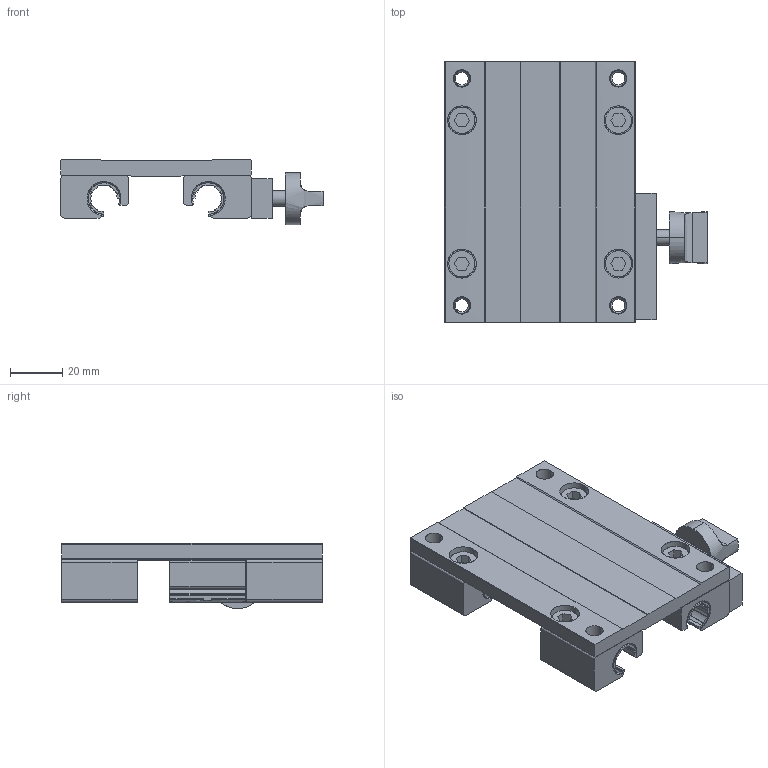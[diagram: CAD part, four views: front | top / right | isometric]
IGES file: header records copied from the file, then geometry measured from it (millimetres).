
Start section: ACIS data in IGES format
Global section: file name: Unknown; native system: ACIS; preprocessor: *IGES writer V5.2; author: unknown author; organization: unknown organization; date: 20100121.191520; units: millimetre
Bounding box: 100.5 x 100 x 25 mm (x, y, z)
Surface area: 54069.8 mm2 (no closed solid volume)
Topology: 0 solids, 0 shells, 1469 faces, 8910 edges, 8910 vertices
Faces by surface type: bspline 1469
